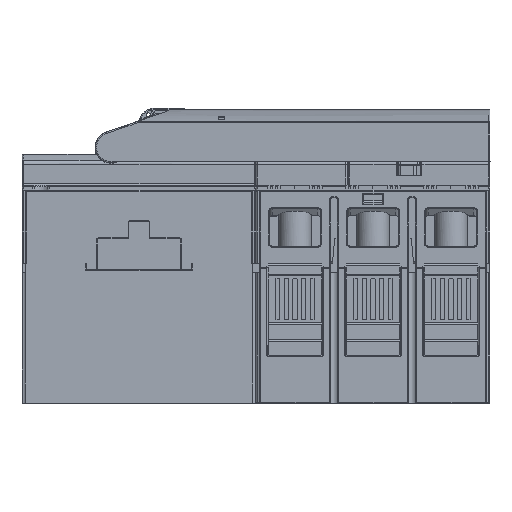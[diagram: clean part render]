
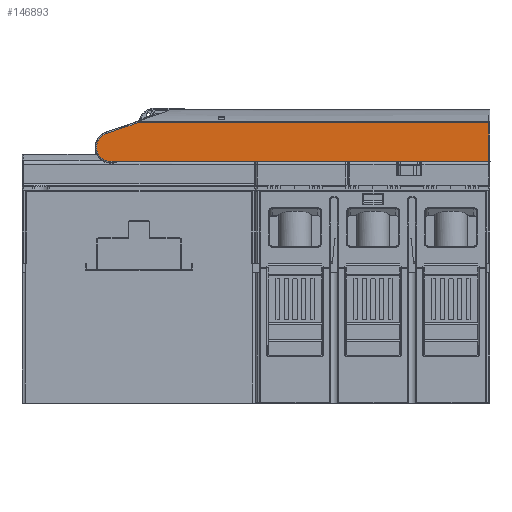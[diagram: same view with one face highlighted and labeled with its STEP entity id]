
A CAD part, front view. The second image highlights one B-rep face of the part: STEP entity #146893.
In plain terms, the highlighted planar face has unit normal (0, -1, 0).
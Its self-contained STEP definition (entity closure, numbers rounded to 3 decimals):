
#5428 = EDGE_CURVE ( 'NONE', #104382, #34294, #203637, .T. ) ;
#5431 = EDGE_CURVE ( 'NONE', #34359, #104382, #203654, .T. ) ;
#5436 = EDGE_CURVE ( 'NONE', #33938, #34359, #203662, .T. ) ;
#5440 = EDGE_CURVE ( 'NONE', #33966, #33938, #169316, .T. ) ;
#33938 = VERTEX_POINT ( 'NONE', #137961 ) ;
#33966 = VERTEX_POINT ( 'NONE', #138061 ) ;
#34294 = VERTEX_POINT ( 'NONE', #167629 ) ;
#34359 = VERTEX_POINT ( 'NONE', #168795 ) ;
#83708 = AXIS2_PLACEMENT_3D ( 'NONE', #222975, #222980, #222984 ) ;
#87604 = EDGE_LOOP ( 'NONE', ( #134488, #134492, #134496, #134500, #134504 ) ) ;
#96643 = LINE ( 'NONE', #96644, #102489 ) ;
#96644 = CARTESIAN_POINT ( 'NONE',  ( -112.919, -24.674, 44.953 ) ) ;
#96666 = DIRECTION ( 'NONE',  ( -1., 0., 0. ) ) ;
#102489 = VECTOR ( 'NONE', #96666, 1000. ) ;
#104382 = VERTEX_POINT ( 'NONE', #187321 ) ;
#134488 = ORIENTED_EDGE ( 'NONE', *, *, #5431, .F. ) ;
#134492 = ORIENTED_EDGE ( 'NONE', *, *, #5436, .F. ) ;
#134496 = ORIENTED_EDGE ( 'NONE', *, *, #5440, .F. ) ;
#134500 = ORIENTED_EDGE ( 'NONE', *, *, #162183, .F. ) ;
#134504 = ORIENTED_EDGE ( 'NONE', *, *, #5428, .F. ) ;
#137961 = CARTESIAN_POINT ( 'NONE',  ( -110.873, -24.674, 53.848 ) ) ;
#138061 = CARTESIAN_POINT ( 'NONE',  ( -108.664, -24.674, 44.953 ) ) ;
#146893 = ADVANCED_FACE ( 'NONE', ( #222923 ), #222927, .F. ) ;
#162183 = EDGE_CURVE ( 'NONE', #34294, #33966, #96643, .T. ) ;
#167629 = CARTESIAN_POINT ( 'NONE',  ( 11.725, -24.674, 44.953 ) ) ;
#168795 = CARTESIAN_POINT ( 'NONE',  ( -100.942, -24.674, 57.267 ) ) ;
#169316 = B_SPLINE_CURVE_WITH_KNOTS ( 'NONE', 3,
 ( #203702, #203691, #203694, #203703, #203705, #203707, #203709, #203711, #203713, #203715, #203716, #203718, #203720, #203722, #203724, #203726, #203728, #203729 ),
 .UNSPECIFIED., .F., .F.,
 ( 4, 2, 2, 2, 2, 2, 2, 2, 4 ),
 ( 0., 0.125, 0.25, 0.375, 0.5, 0.625, 0.75, 0.875, 1. ),
 .UNSPECIFIED. ) ;
#187321 = CARTESIAN_POINT ( 'NONE',  ( 11.725, -24.674, 57.267 ) ) ;
#203637 = LINE ( 'NONE', #203650, #215525 ) ;
#203650 = CARTESIAN_POINT ( 'NONE',  ( 11.725, -24.674, 63.548 ) ) ;
#203652 = DIRECTION ( 'NONE',  ( 0., 0., -1. ) ) ;
#203654 = LINE ( 'NONE', #203656, #215542 ) ;
#203656 = CARTESIAN_POINT ( 'NONE',  ( -114.875, -24.674, 57.267 ) ) ;
#203658 = DIRECTION ( 'NONE',  ( 1., 0., 0. ) ) ;
#203662 = LINE ( 'NONE', #203687, #215508 ) ;
#203687 = CARTESIAN_POINT ( 'NONE',  ( -110.873, -24.674, 53.848 ) ) ;
#203689 = DIRECTION ( 'NONE',  ( 0.946, 0., 0.326 ) ) ;
#203691 = CARTESIAN_POINT ( 'NONE',  ( -109.225, -24.674, 44.866 ) ) ;
#203694 = CARTESIAN_POINT ( 'NONE',  ( -109.803, -24.674, 44.883 ) ) ;
#203702 = CARTESIAN_POINT ( 'NONE',  ( -108.664, -24.674, 44.953 ) ) ;
#203703 = CARTESIAN_POINT ( 'NONE',  ( -110.914, -24.674, 45.126 ) ) ;
#203705 = CARTESIAN_POINT ( 'NONE',  ( -111.446, -24.674, 45.351 ) ) ;
#203707 = CARTESIAN_POINT ( 'NONE',  ( -112.393, -24.674, 45.98 ) ) ;
#203709 = CARTESIAN_POINT ( 'NONE',  ( -112.807, -24.674, 46.383 ) ) ;
#203711 = CARTESIAN_POINT ( 'NONE',  ( -113.462, -24.674, 47.312 ) ) ;
#203713 = CARTESIAN_POINT ( 'NONE',  ( -113.702, -24.674, 47.838 ) ) ;
#203715 = CARTESIAN_POINT ( 'NONE',  ( -113.976, -24.674, 48.941 ) ) ;
#203716 = CARTESIAN_POINT ( 'NONE',  ( -114.01, -24.674, 49.518 ) ) ;
#203718 = CARTESIAN_POINT ( 'NONE',  ( -113.866, -24.674, 50.646 ) ) ;
#203720 = CARTESIAN_POINT ( 'NONE',  ( -113.688, -24.674, 51.196 ) ) ;
#203722 = CARTESIAN_POINT ( 'NONE',  ( -113.145, -24.674, 52.194 ) ) ;
#203724 = CARTESIAN_POINT ( 'NONE',  ( -112.78, -24.674, 52.643 ) ) ;
#203726 = CARTESIAN_POINT ( 'NONE',  ( -111.913, -24.674, 53.377 ) ) ;
#203728 = CARTESIAN_POINT ( 'NONE',  ( -111.41, -24.674, 53.663 ) ) ;
#203729 = CARTESIAN_POINT ( 'NONE',  ( -110.873, -24.674, 53.848 ) ) ;
#215508 = VECTOR ( 'NONE', #203689, 1000. ) ;
#215525 = VECTOR ( 'NONE', #203652, 1000. ) ;
#215542 = VECTOR ( 'NONE', #203658, 1000. ) ;
#222923 = FACE_OUTER_BOUND ( 'NONE', #87604, .T. ) ;
#222927 = PLANE ( 'NONE',  #83708 ) ;
#222975 = CARTESIAN_POINT ( 'NONE',  ( -114.875, -24.674, 63.548 ) ) ;
#222980 = DIRECTION ( 'NONE',  ( 0., 1., 0. ) ) ;
#222984 = DIRECTION ( 'NONE',  ( 0., 0., 1. ) ) ;
